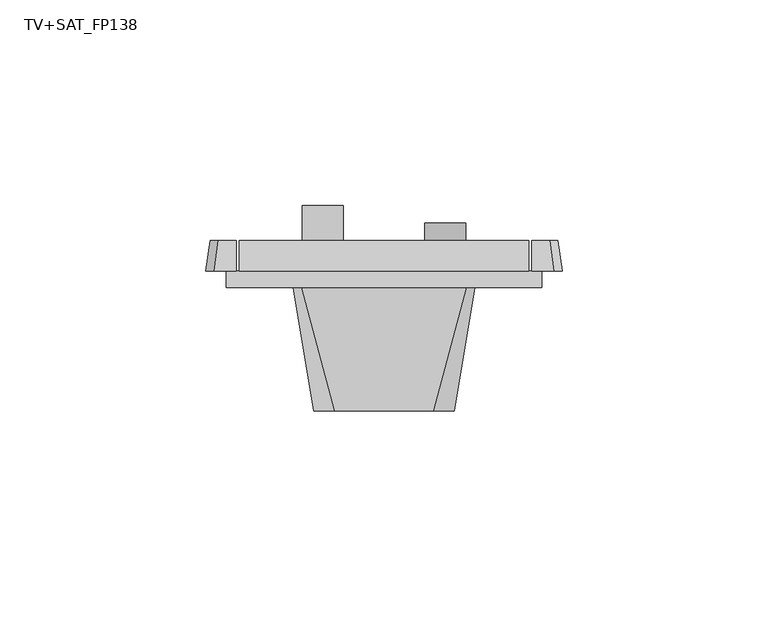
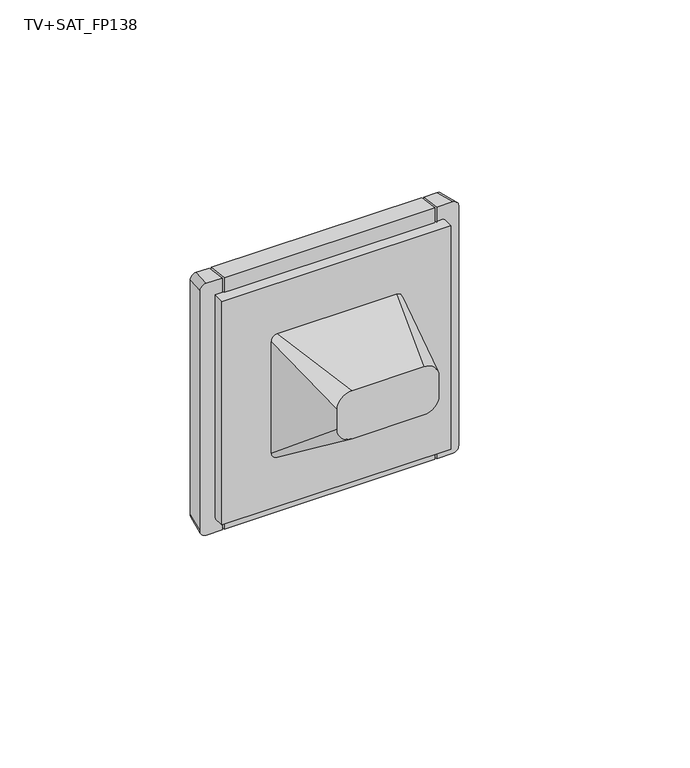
"""IFC4 building model written with IfcOpenShell, lengths in millimetres: proxy geometry, IEK_Forte&Piano_Розекта мультимедийная : TV+SAT_FP138."""

from ifc_helpers import new_model, si_unit, point, frame, origin, place, context, project, spatial, polyline, circle_curve, trimmed, faceted_brep, source, transform, mapped, element, save
from ifc_brep_helpers import plane_surface, cylinder_surface, revolved_surface, extruded_surface, spline_surface, advanced_brep


def tv_sat_fp138_361e7c60(model_context):
    return source(origin(), model_context, "Body", "SolidModel", [
        advanced_brep(
        [(11.2075584, 10.5, 10.0), (18.53558, 10.5, 10.0), (18.53558, 10.5, 5.9644803), (11.2075584, 10.5, 5.9644803), (-18.53558, 10.5, 10.0), (-11.2075584, 10.5, 10.0), (-11.2075584, 10.5, 5.9644803), (-18.53558, 10.5, 5.9644803), (11.2075584, 11.5, 10.0), (11.2075584, 11.5, 5.9644803), (18.53558, 11.5, 10.0), (18.53558, 11.5, 5.9644803), (-18.53558, 11.5, 10.0), (-11.2075584, 11.5, 10.0), (-18.53558, 11.5, 5.9644803), (-11.2075584, 11.5, 5.9644803), (-22.7, 11.5, 22.7), (22.7, 11.5, 22.7), (22.7, 11.5, -22.7), (-22.7, 11.5, -22.7), (7.8715692, 11.5, 0.0), (21.8715692, 11.5, 0.0), (-21.8715692, 11.5, 0.0), (-7.8715692, 11.5, 0.0), (-22.7, 4.0, 22.7), (-22.7, 4.0, -22.7), (22.7, 4.0, -22.7), (22.7, 4.0, 22.7), (21.8715692, 4.0, 0.0), (7.8715692, 4.0, 0.0), (-7.8715692, 4.0, 0.0), (-21.8715692, 4.0, 0.0)],
        [
            (0, 1),
            (1, 2),
            (2, 3, circle_curve(frame((14.8715692, 10.5, 0.0), z_axis=(0.0, -1.0, 0.0), x_axis=(1.0, 0.0, 0.0)), 7.0)),
            (3, 0),
            (4, 5),
            (5, 6),
            (6, 7, circle_curve(frame((-14.8715692, 10.5, 0.0), z_axis=(0.0, -1.0, 0.0), x_axis=(1.0, 0.0, 0.0)), 7.0)),
            (7, 4),
            (8, 0),
            (3, 9),
            (9, 8),
            (1, 10),
            (10, 11),
            (11, 2),
            (8, 10),
            (4, 12),
            (12, 13),
            (13, 5),
            (7, 14),
            (14, 12),
            (13, 15),
            (15, 6),
            (16, 17),
            (17, 18),
            (18, 19),
            (19, 16),
            (9, 20, circle_curve(frame((14.8715692, 11.5, 0.0), z_axis=(0.0, -1.0, 0.0), x_axis=(1.0, 0.0, 0.0)), 7.0)),
            (20, 21, circle_curve(frame((14.8715692, 11.5, 0.0), z_axis=(0.0, -1.0, 0.0), x_axis=(1.0, 0.0, 0.0)), 7.0)),
            (21, 11, circle_curve(frame((14.8715692, 11.5, 0.0), z_axis=(0.0, -1.0, 0.0), x_axis=(1.0, 0.0, 0.0)), 7.0)),
            (14, 22, circle_curve(frame((-14.8715692, 11.5, 0.0), z_axis=(0.0, -1.0, 0.0), x_axis=(1.0, 0.0, 0.0)), 7.0)),
            (22, 23, circle_curve(frame((-14.8715692, 11.5, 0.0), z_axis=(0.0, -1.0, 0.0), x_axis=(1.0, 0.0, 0.0)), 7.0)),
            (23, 15, circle_curve(frame((-14.8715692, 11.5, 0.0), z_axis=(0.0, -1.0, 0.0), x_axis=(1.0, 0.0, 0.0)), 7.0)),
            (24, 25),
            (25, 26),
            (26, 27),
            (27, 24),
            (28, 29, circle_curve(frame((14.8715692, 4.0, 0.0), z_axis=(0.0, 1.0, 0.0), x_axis=(1.0, 0.0, 0.0)), 7.0)),
            (29, 28, circle_curve(frame((14.8715692, 4.0, 0.0), z_axis=(0.0, 1.0, 0.0), x_axis=(1.0, 0.0, 0.0)), 7.0)),
            (30, 31, circle_curve(frame((-14.8715692, 4.0, 0.0), z_axis=(0.0, 1.0, 0.0), x_axis=(1.0, 0.0, 0.0)), 7.0)),
            (31, 30, circle_curve(frame((-14.8715692, 4.0, 0.0), z_axis=(0.0, 1.0, 0.0), x_axis=(1.0, 0.0, 0.0)), 7.0)),
            (28, 21),
            (20, 29),
            (30, 23),
            (22, 31),
            (19, 25),
            (24, 16),
            (18, 26),
            (17, 27),
        ],
        [
            plane_surface(frame((11.2075584, 10.5, 8.2474839), z_axis=(0.0, 1.0, 0.0), x_axis=(0.0, 0.0, -1.0))),
            plane_surface(frame((11.2075584, 10.5, 10.0), z_axis=(1.0, 0.0, 0.0), x_axis=(0.0, 1.0, 0.0))),
            plane_surface(frame((18.53558, 10.5, 4.8456457), z_axis=(-1.0, 0.0, 0.0), x_axis=(0.0, 1.0, 0.0))),
            plane_surface(frame((18.53558, 10.5, 10.0), z_axis=(0.0, 0.0, -1.0), x_axis=(0.0, 1.0, 0.0))),
            plane_surface(frame((-11.2075584, 10.5, 10.0), z_axis=(0.0, 0.0, -1.0), x_axis=(0.0, 1.0, 0.0))),
            plane_surface(frame((-18.53558, 10.5, 10.0), z_axis=(1.0, 0.0, 0.0), x_axis=(0.0, 1.0, 0.0))),
            plane_surface(frame((-11.2075584, 10.5, 4.8456457), z_axis=(-1.0, 0.0, 0.0), x_axis=(0.0, 1.0, 0.0))),
            plane_surface(frame((-22.7, 11.5, 22.7), z_axis=(0.0, 1.0, 0.0), x_axis=(0.0, 0.0, 1.0))),
            plane_surface(frame((-22.7, 4.0, 22.7), z_axis=(0.0, -1.0, 0.0), x_axis=(0.0, 0.0, -1.0))),
            revolved_surface(polyline([(21.8715692, 4.0, 0.0), (21.8715692, 11.5, 0.0)]), (14.8715692, 11.5, 0.0), (0.0, -1.0, 0.0)),
            revolved_surface(polyline([(-7.8715692, 4.0, 0.0), (-7.8715692, 11.5, 0.0)]), (-14.8715692, -1.5, 0.0), (0.0, -1.0, 0.0)),
            plane_surface(frame((-22.7, 4.0, 22.7), z_axis=(-1.0, 0.0, 0.0), x_axis=(0.0, 1.0, 0.0))),
            plane_surface(frame((-22.7, 4.0, -22.7), z_axis=(0.0, 0.0, -1.0), x_axis=(0.0, 1.0, 0.0))),
            plane_surface(frame((22.7, 4.0, -22.7), z_axis=(1.0, 0.0, 0.0), x_axis=(0.0, 1.0, 0.0))),
            plane_surface(frame((22.7, 4.0, 22.7), z_axis=(0.0, 0.0, 1.0), x_axis=(0.0, 1.0, 0.0))),
        ],
        [
            (0, [[1, 2, 3, 4]]),
            (0, [[5, 6, 7, 8]]),
            (1, [[9, -4, 10, 11]]),
            (2, [[12, 13, 14, -2]]),
            (3, [[-1, -9, 15, -12]]),
            (4, [[-5, 16, 17, 18]]),
            (5, [[-16, -8, 19, 20]]),
            (6, [[-18, 21, 22, -6]]),
            (7, [[23, 24, 25, 26], [-15, -11, 27, 28, 29, -13], [-17, -20, 30, 31, 32, -21]]),
            (8, [[33, 34, 35, 36], [37, 38], [39, 40]]),
            (9, [[41, -28, 42, -37]]),
            (9, [[-41, -38, -42, -27, -10, -3, -14, -29]]),
            (10, [[43, -31, 44, -39]]),
            (10, [[-43, -40, -44, -30, -19, -7, -22, -32]]),
            (11, [[-26, 45, -33, 46]]),
            (12, [[-25, 47, -34, -45]]),
            (13, [[-24, 48, -35, -47]]),
            (14, [[-23, -46, -36, -48]]),
        ],
    ),
        advanced_brep(
        [(13.8171946, 10.4251664, 0.0), (15.9259438, 10.4251664, 0.0), (18.7127862, 10.4251664, 0.0), (11.0303521, 10.4251664, 0.0), (18.7127862, 4.0, 0.0), (11.0303521, 4.0, 0.0), (15.9259438, 4.0, 0.0), (13.8171946, 4.0, 0.0)],
        [
            (0, 1, circle_curve(frame((14.8715692, 10.4251664, 0.0), z_axis=(0.0, -1.0, 0.0), x_axis=(1.0, 0.0, 0.0)), 1.0543746)),
            (1, 2),
            (2, 3, circle_curve(frame((14.8715692, 10.4251664, 0.0), z_axis=(0.0, 1.0, 0.0), x_axis=(1.0, 0.0, 0.0)), 3.8412171)),
            (3, 0),
            (1, 0, circle_curve(frame((14.8715692, 10.4251664, 0.0), z_axis=(0.0, -1.0, 0.0), x_axis=(1.0, 0.0, 0.0)), 1.0543746)),
            (3, 2, circle_curve(frame((14.8715692, 10.4251664, 0.0), z_axis=(0.0, 1.0, 0.0), x_axis=(1.0, 0.0, 0.0)), 3.8412171)),
            (2, 4),
            (4, 5, circle_curve(frame((14.8715692, 4.0, 0.0), z_axis=(0.0, 1.0, 0.0), x_axis=(1.0, 0.0, 0.0)), 3.8412171)),
            (5, 3),
            (5, 4, circle_curve(frame((14.8715692, 4.0, 0.0), z_axis=(0.0, 1.0, 0.0), x_axis=(1.0, 0.0, 0.0)), 3.8412171)),
            (4, 6),
            (6, 7, circle_curve(frame((14.8715692, 4.0, 0.0), z_axis=(0.0, 1.0, 0.0), x_axis=(1.0, 0.0, 0.0)), 1.0543746)),
            (7, 5),
            (7, 6, circle_curve(frame((14.8715692, 4.0, 0.0), z_axis=(0.0, 1.0, 0.0), x_axis=(1.0, 0.0, 0.0)), 1.0543746)),
            (6, 1),
            (0, 7),
        ],
        [
            plane_surface(frame((14.8715692, 10.4251664, 0.0), z_axis=(0.0, 1.0, 0.0), x_axis=(1.0, 0.0, 0.0))),
            cylinder_surface(frame((14.8715692, 1.5, 0.0), z_axis=(0.0, 1.0, 0.0), x_axis=(1.0, 0.0, 0.0)), 3.8412171),
            plane_surface(frame((14.8715692, 4.0, 0.0), z_axis=(0.0, -1.0, 0.0), x_axis=(1.0, 0.0, 0.0))),
            revolved_surface(polyline([(15.925943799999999, 10.4251664, 0.0), (15.925943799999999, 4.0, 0.0)]), (14.8715692, 1.5, 0.0), (0.0, 1.0, 0.0)),
        ],
        [
            (0, [[1, 2, 3, 4]]),
            (0, [[5, -4, 6, -2]]),
            (1, [[-3, 7, 8, 9]]),
            (1, [[-6, -9, 10, -7]]),
            (2, [[-8, 11, 12, 13]]),
            (2, [[-10, -13, 14, -11]]),
            (3, [[-12, 15, -1, 16]]),
            (3, [[-14, -16, -5, -15]]),
        ],
    ),
        advanced_brep(
        [(14.8715692, 14.7712404, 0.0), (15.7742181, 14.7712404, 0.0), (13.9689203, 14.7712404, 0.0), (13.9689203, 4.0, 0.0), (15.7742181, 4.0, 0.0), (14.8715692, 4.0, 0.0)],
        [
            (0, 1),
            (1, 2, circle_curve(frame((14.8715692, 14.7712404, 0.0), z_axis=(0.0, 1.0, 0.0), x_axis=(1.0, 0.0, 0.0)), 0.9026489)),
            (2, 0),
            (2, 1, circle_curve(frame((14.8715692, 14.7712404, 0.0), z_axis=(0.0, 1.0, 0.0), x_axis=(1.0, 0.0, 0.0)), 0.9026489)),
            (3, 4, circle_curve(frame((14.8715692, 4.0, 0.0), z_axis=(0.0, -1.0, 0.0), x_axis=(1.0, 0.0, 0.0)), 0.9026489)),
            (4, 5),
            (5, 3),
            (4, 3, circle_curve(frame((14.8715692, 4.0, 0.0), z_axis=(0.0, -1.0, 0.0), x_axis=(1.0, 0.0, 0.0)), 0.9026489)),
            (1, 4),
            (3, 2),
        ],
        [
            plane_surface(frame((14.8715692, 14.7712404, 0.0), z_axis=(0.0, 1.0, 0.0), x_axis=(1.0, 0.0, 0.0))),
            plane_surface(frame((14.8715692, 4.0, 0.0), z_axis=(0.0, -1.0, 0.0), x_axis=(1.0, 0.0, 0.0))),
            cylinder_surface(frame((14.8715692, 1.5, 0.0), z_axis=(0.0, 1.0, 0.0), x_axis=(1.0, 0.0, 0.0)), 0.9026489),
        ],
        [
            (0, [[1, 2, 3]]),
            (0, [[-3, 4, -1]]),
            (1, [[5, 6, 7]]),
            (1, [[8, -7, -6]]),
            (2, [[-2, 9, -5, 10]]),
            (2, [[-4, -10, -8, -9]]),
        ],
    ),
        advanced_brep(
        [(9.8715692, 4.0, 0.0), (19.8715692, 4.0, 0.0), (18.8920998, 4.0, 0.0), (10.8510386, 4.0, 0.0), (18.8920998, 12.5, 0.0), (10.8510386, 12.5, 0.0), (18.8920998, 15.6430385, 0.0), (10.8510386, 15.6430385, 0.0), (19.8715692, 15.6430385, 0.0), (9.8715692, 15.6430385, 0.0)],
        [
            (0, 1, circle_curve(frame((14.8715692, 4.0, 0.0), z_axis=(0.0, -1.0, 0.0), x_axis=(1.0, 0.0, 0.0)), 5.0)),
            (1, 2),
            (2, 3, circle_curve(frame((14.8715692, 4.0, 0.0), z_axis=(0.0, 1.0, 0.0), x_axis=(1.0, 0.0, 0.0)), 4.0205306)),
            (3, 0),
            (1, 0, circle_curve(frame((14.8715692, 4.0, 0.0), z_axis=(0.0, -1.0, 0.0), x_axis=(1.0, 0.0, 0.0)), 5.0)),
            (3, 2, circle_curve(frame((14.8715692, 4.0, 0.0), z_axis=(0.0, 1.0, 0.0), x_axis=(1.0, 0.0, 0.0)), 4.0205306)),
            (2, 4),
            (4, 5, circle_curve(frame((14.8715692, 12.5, 0.0), z_axis=(0.0, 1.0, 0.0), x_axis=(1.0, 0.0, 0.0)), 4.0205306)),
            (5, 3),
            (5, 4, circle_curve(frame((14.8715692, 12.5, 0.0), z_axis=(0.0, 1.0, 0.0), x_axis=(1.0, 0.0, 0.0)), 4.0205306)),
            (4, 6),
            (6, 7, circle_curve(frame((14.8715692, 15.6430385, 0.0), z_axis=(0.0, 1.0, 0.0), x_axis=(1.0, 0.0, 0.0)), 4.0205306)),
            (7, 5),
            (7, 6, circle_curve(frame((14.8715692, 15.6430385, 0.0), z_axis=(0.0, 1.0, 0.0), x_axis=(1.0, 0.0, 0.0)), 4.0205306)),
            (6, 8),
            (8, 9, circle_curve(frame((14.8715692, 15.6430385, 0.0), z_axis=(0.0, 1.0, 0.0), x_axis=(1.0, 0.0, 0.0)), 5.0)),
            (9, 7),
            (9, 8, circle_curve(frame((14.8715692, 15.6430385, 0.0), z_axis=(0.0, 1.0, 0.0), x_axis=(1.0, 0.0, 0.0)), 5.0)),
            (8, 1),
            (0, 9),
        ],
        [
            plane_surface(frame((14.8715692, 4.0, 0.0), z_axis=(0.0, -1.0, 0.0), x_axis=(1.0, 0.0, 0.0))),
            revolved_surface(polyline([(18.8920998, 12.5, 0.0), (18.8920998, 4.0, 0.0)]), (14.8715692, 11.5, 0.0), (0.0, 1.0, 0.0)),
            revolved_surface(polyline([(18.8920998, 15.6430385, 0.0), (18.8920998, 12.5, 0.0)]), (14.8715692, 11.5, 0.0), (0.0, 1.0, 0.0)),
            plane_surface(frame((14.8715692, 15.6430385, 0.0), z_axis=(0.0, 1.0, 0.0), x_axis=(1.0, 0.0, 0.0))),
            cylinder_surface(frame((14.8715692, 11.5, 0.0), z_axis=(0.0, 1.0, 0.0), x_axis=(1.0, 0.0, 0.0)), 5.0),
        ],
        [
            (0, [[1, 2, 3, 4]]),
            (0, [[5, -4, 6, -2]]),
            (1, [[-3, 7, 8, 9]]),
            (1, [[-6, -9, 10, -7]]),
            (2, [[-8, 11, 12, 13]]),
            (2, [[-10, -13, 14, -11]]),
            (3, [[-12, 15, 16, 17]]),
            (3, [[-14, -17, 18, -15]]),
            (4, [[-16, 19, -1, 20]]),
            (4, [[-18, -20, -5, -19]]),
        ],
    ),
        advanced_brep(
        [(-12.458782, 19.4212356, 0.0), (-17.2843563, 19.4212356, 0.0), (-15.9259438, 19.4212356, 0.0), (-13.8171946, 19.4212356, 0.0), (-12.458782, 4.0, 0.0), (-17.2843563, 4.0, 0.0), (-13.8171946, 4.0, 0.0), (-15.9259438, 4.0, 0.0)],
        [
            (0, 1, circle_curve(frame((-14.8715692, 19.4212356, 0.0), z_axis=(0.0, 1.0, 0.0), x_axis=(-1.0, 0.0, 0.0)), 2.4127872)),
            (1, 2),
            (2, 3, circle_curve(frame((-14.8715692, 19.4212356, 0.0), z_axis=(0.0, -1.0, 0.0), x_axis=(-1.0, 0.0, 0.0)), 1.0543746)),
            (3, 0),
            (1, 0, circle_curve(frame((-14.8715692, 19.4212356, 0.0), z_axis=(0.0, 1.0, 0.0), x_axis=(-1.0, 0.0, 0.0)), 2.4127872)),
            (3, 2, circle_curve(frame((-14.8715692, 19.4212356, 0.0), z_axis=(0.0, -1.0, 0.0), x_axis=(-1.0, 0.0, 0.0)), 1.0543746)),
            (4, 5, circle_curve(frame((-14.8715692, 4.0, 0.0), z_axis=(0.0, 1.0, 0.0), x_axis=(-1.0, 0.0, 0.0)), 2.4127872)),
            (5, 1),
            (0, 4),
            (5, 4, circle_curve(frame((-14.8715692, 4.0, 0.0), z_axis=(0.0, 1.0, 0.0), x_axis=(-1.0, 0.0, 0.0)), 2.4127872)),
            (6, 7, circle_curve(frame((-14.8715692, 4.0, 0.0), z_axis=(0.0, 1.0, 0.0), x_axis=(-1.0, 0.0, 0.0)), 1.0543746)),
            (7, 5),
            (4, 6),
            (7, 6, circle_curve(frame((-14.8715692, 4.0, 0.0), z_axis=(0.0, 1.0, 0.0), x_axis=(-1.0, 0.0, 0.0)), 1.0543746)),
            (2, 7),
            (6, 3),
        ],
        [
            plane_surface(frame((-14.8715692, 19.4212356, 0.0), z_axis=(0.0, 1.0, 0.0), x_axis=(-1.0, 0.0, 0.0))),
            cylinder_surface(frame((-14.8715692, 1.5, 0.0), z_axis=(0.0, -1.0, 0.0), x_axis=(-1.0, 0.0, 0.0)), 2.4127872),
            plane_surface(frame((-14.8715692, 4.0, 0.0), z_axis=(0.0, -1.0, 0.0), x_axis=(-1.0, 0.0, 0.0))),
            revolved_surface(polyline([(-15.925943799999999, 4.0, 0.0), (-15.925943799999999, 19.4212356, 0.0)]), (-14.8715692, 1.5, 0.0), (0.0, -1.0, 0.0)),
        ],
        [
            (0, [[1, 2, 3, 4]]),
            (0, [[5, -4, 6, -2]]),
            (1, [[7, 8, -1, 9]]),
            (1, [[10, -9, -5, -8]]),
            (2, [[11, 12, -7, 13]]),
            (2, [[14, -13, -10, -12]]),
            (3, [[-3, 15, -11, 16]]),
            (3, [[-6, -16, -14, -15]]),
        ],
    ),
        advanced_brep(
        [(-12.458782, 4.0, 0.0), (-17.2843563, 4.0, 0.0), (-19.8715692, 4.0, 0.0), (-9.8715692, 4.0, 0.0), (-12.458782, 12.5, 0.0), (-17.2843563, 12.5, 0.0), (-12.458782, 19.9035586, 0.0), (-17.2843563, 19.9035586, 0.0), (-9.8715692, 19.9035586, 0.0), (-19.8715692, 19.9035586, 0.0)],
        [
            (0, 1, circle_curve(frame((-14.8715692, 4.0, 0.0), z_axis=(0.0, 1.0, 0.0), x_axis=(-1.0, 0.0, 0.0)), 2.4127872)),
            (1, 2),
            (2, 3, circle_curve(frame((-14.8715692, 4.0, 0.0), z_axis=(0.0, -1.0, 0.0), x_axis=(-1.0, 0.0, 0.0)), 5.0)),
            (3, 0),
            (1, 0, circle_curve(frame((-14.8715692, 4.0, 0.0), z_axis=(0.0, 1.0, 0.0), x_axis=(-1.0, 0.0, 0.0)), 2.4127872)),
            (3, 2, circle_curve(frame((-14.8715692, 4.0, 0.0), z_axis=(0.0, -1.0, 0.0), x_axis=(-1.0, 0.0, 0.0)), 5.0)),
            (4, 5, circle_curve(frame((-14.8715692, 12.5, 0.0), z_axis=(0.0, 1.0, 0.0), x_axis=(-1.0, 0.0, 0.0)), 2.4127872)),
            (5, 1),
            (0, 4),
            (5, 4, circle_curve(frame((-14.8715692, 12.5, 0.0), z_axis=(0.0, 1.0, 0.0), x_axis=(-1.0, 0.0, 0.0)), 2.4127872)),
            (6, 7, circle_curve(frame((-14.8715692, 19.9035586, 0.0), z_axis=(0.0, 1.0, 0.0), x_axis=(-1.0, 0.0, 0.0)), 2.4127872)),
            (7, 5),
            (4, 6),
            (7, 6, circle_curve(frame((-14.8715692, 19.9035586, 0.0), z_axis=(0.0, 1.0, 0.0), x_axis=(-1.0, 0.0, 0.0)), 2.4127872)),
            (8, 9, circle_curve(frame((-14.8715692, 19.9035586, 0.0), z_axis=(0.0, 1.0, 0.0), x_axis=(-1.0, 0.0, 0.0)), 5.0)),
            (9, 7),
            (6, 8),
            (9, 8, circle_curve(frame((-14.8715692, 19.9035586, 0.0), z_axis=(0.0, 1.0, 0.0), x_axis=(-1.0, 0.0, 0.0)), 5.0)),
            (2, 9),
            (8, 3),
        ],
        [
            plane_surface(frame((-14.8715692, 4.0, 0.0), z_axis=(0.0, -1.0, 0.0), x_axis=(-1.0, 0.0, 0.0))),
            revolved_surface(polyline([(-17.2843564, 4.0, 0.0), (-17.2843564, 12.5, 0.0)]), (-14.8715692, 11.5, 0.0), (0.0, -1.0, 0.0)),
            revolved_surface(polyline([(-17.2843564, 12.5, 0.0), (-17.2843564, 19.9035586, 0.0)]), (-14.8715692, 11.5, 0.0), (0.0, -1.0, 0.0)),
            plane_surface(frame((-14.8715692, 19.9035586, 0.0), z_axis=(0.0, 1.0, 0.0), x_axis=(-1.0, 0.0, 0.0))),
            cylinder_surface(frame((-14.8715692, 11.5, 0.0), z_axis=(0.0, -1.0, 0.0), x_axis=(-1.0, 0.0, 0.0)), 5.0),
        ],
        [
            (0, [[1, 2, 3, 4]]),
            (0, [[5, -4, 6, -2]]),
            (1, [[7, 8, -1, 9]]),
            (1, [[10, -9, -5, -8]]),
            (2, [[11, 12, -7, 13]]),
            (2, [[14, -13, -10, -12]]),
            (3, [[15, 16, -11, 17]]),
            (3, [[18, -17, -14, -16]]),
            (4, [[-3, 19, -15, 20]]),
            (4, [[-6, -20, -18, -19]]),
        ],
    ),
        faceted_brep([(35.2, 11.5, 43.5), (35.2, 4.0, 44.5), (35.2, 4.0, -44.5), (35.2, 11.5, -43.5), (-35.2, 11.5, 43.5), (-35.2, 11.5, -43.5), (-35.2, 4.0, -44.5), (-35.2, 4.0, 44.5), (-23.5, 4.0, 23.5), (23.5, 4.0, 23.5), (23.5, 4.0, -23.5), (-23.5, 4.0, -23.5), (23.5, 11.5, 23.5), (-23.5, 11.5, 23.5), (-23.5, 11.5, -23.5), (23.5, 11.5, -23.5)], [[[0, 1, 2, 3]], [[4, 5, 6, 7]], [[1, 0, 4, 7]], [[2, 1, 7, 6], [8, 9, 10, 11]], [[3, 2, 6, 5]], [[0, 3, 5, 4], [12, 13, 14, 15]], [[8, 13, 12, 9]], [[9, 12, 15, 10]], [[10, 15, 14, 11]], [[13, 8, 11, 14]]]),
        advanced_brep(
        [(35.8576533, 11.5, 43.5), (35.8576533, 11.5, -43.5), (35.8576533, 4.0, -44.5), (35.8576533, 4.0, -39.5), (35.8576533, 4.0, 39.5), (35.8576533, 4.0, 44.5), (-35.8576533, 11.5, -43.5), (-35.8576533, 11.5, 43.5), (-35.8576533, 4.0, 44.5), (-35.8576533, 4.0, 39.5), (-35.8576533, 4.0, -39.5), (-35.8576533, 4.0, -44.5), (40.25, 11.5, 43.5), (42.25, 11.5, 41.5), (42.25, 11.5, -41.5), (40.25, 11.5, -43.5), (-40.25, 11.5, -43.5), (-42.25, 11.5, -41.5), (-42.25, 11.5, 41.5), (-40.25, 11.5, 43.5), (-41.25, 4.0, 44.5), (-43.25, 4.0, 42.5), (-43.25, 4.0, -42.5), (-41.25, 4.0, -44.5), (-38.25, 4.0, -39.5), (-38.25, 4.0, 39.5), (41.25, 4.0, -44.5), (43.25, 4.0, -42.5), (43.25, 4.0, 42.5), (41.25, 4.0, 44.5), (38.25, 4.0, 39.5), (38.25, 4.0, -39.5), (-38.25, 0.0, 39.5), (-38.25, 0.0, -39.5), (38.25, 0.0, -39.5), (38.25, 0.0, 39.5)],
        [
            (0, 1),
            (1, 2),
            (2, 3),
            (3, 4),
            (4, 5),
            (5, 0),
            (6, 7),
            (7, 8),
            (8, 9),
            (9, 10),
            (10, 11),
            (11, 6),
            (12, 13, circle_curve(frame((40.25, 11.5, 41.5), z_axis=(0.0, 1.0, 0.0), x_axis=(-1.0, 0.0, 0.0)), 2.0)),
            (13, 14),
            (14, 15, circle_curve(frame((40.25, 11.5, -41.5), z_axis=(0.0, 1.0, 0.0), x_axis=(-1.0, 0.0, 0.0)), 2.0)),
            (15, 1),
            (0, 12),
            (16, 17, circle_curve(frame((-40.25, 11.5, -41.5), z_axis=(0.0, 1.0, 0.0), x_axis=(-1.0, 0.0, 0.0)), 2.0)),
            (17, 18),
            (18, 19, circle_curve(frame((-40.25, 11.5, 41.5), z_axis=(0.0, 1.0, 0.0), x_axis=(-1.0, 0.0, 0.0)), 2.0)),
            (19, 7),
            (6, 16),
            (20, 21, circle_curve(frame((-41.25, 4.0, 42.5), z_axis=(0.0, -1.0, 0.0), x_axis=(-1.0, 0.0, 0.0)), 2.0)),
            (21, 22),
            (22, 23, circle_curve(frame((-41.25, 4.0, -42.5), z_axis=(0.0, -1.0, 0.0), x_axis=(-1.0, 0.0, 0.0)), 2.0)),
            (23, 11),
            (10, 24),
            (24, 25),
            (25, 9),
            (8, 20),
            (26, 27, circle_curve(frame((41.25, 4.0, -42.5), z_axis=(0.0, -1.0, 0.0), x_axis=(-1.0, 0.0, 0.0)), 2.0)),
            (27, 28),
            (28, 29, circle_curve(frame((41.25, 4.0, 42.5), z_axis=(0.0, -1.0, 0.0), x_axis=(-1.0, 0.0, 0.0)), 2.0)),
            (29, 5),
            (4, 30),
            (30, 31),
            (31, 3),
            (2, 26),
            (29, 12),
            (19, 20),
            (28, 13),
            (27, 14),
            (26, 15),
            (23, 16),
            (22, 17),
            (21, 18),
            (3, 10),
            (9, 4),
            (32, 33),
            (33, 34),
            (34, 35),
            (35, 32),
            (32, 25),
            (24, 33),
            (31, 34),
            (30, 35),
        ],
        [
            plane_surface(frame((35.8576533, 11.5, 44.5), z_axis=(-1.0, 0.0, 0.0), x_axis=(0.0, -1.0, 0.0))),
            plane_surface(frame((-35.8576533, 11.5, -44.5), z_axis=(1.0, 0.0, 0.0), x_axis=(0.0, -1.0, 0.0))),
            plane_surface(frame((0.0, 11.5, 0.0), z_axis=(0.0, 1.0, 0.0), x_axis=(1.0, 0.0, 0.0))),
            plane_surface(frame((0.0, 4.0, 0.0), z_axis=(0.0, -1.0, 0.0), x_axis=(1.0, 0.0, 0.0))),
            plane_surface(frame((0.0, 4.0, 44.5), z_axis=(0.0, 0.13216372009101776, 0.9912279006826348), x_axis=(1.0, 0.0, 0.0))),
            extruded_surface(trimmed(circle_curve(frame((41.25, 4.0, 42.5), z_axis=(0.0, 1.0, 0.0), x_axis=(-1.0, 0.0, 0.0)), 2.0), [point((41.25, 4.0, 44.5))], [point((43.25, 4.0, 42.5))], True, "CARTESIAN"), (-1.0, 7.5, -1.0), 7.632168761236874),
            plane_surface(frame((43.25, 4.0, 0.0), z_axis=(0.9912279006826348, 0.13216372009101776, 0.0), x_axis=(0.0, 0.0, -1.0))),
            extruded_surface(trimmed(circle_curve(frame((41.25, 4.0, -42.5), z_axis=(0.0, 1.0, 0.0), x_axis=(-1.0, 0.0, 0.0)), 2.0), [point((43.25, 4.0, -42.5))], [point((41.25, 4.0, -44.5))], True, "CARTESIAN"), (-1.0, 7.5, 1.0), 7.632168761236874),
            plane_surface(frame((0.0, 4.0, -44.5), z_axis=(0.0, 0.13216372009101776, -0.9912279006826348), x_axis=(-1.0, 0.0, 0.0))),
            extruded_surface(trimmed(circle_curve(frame((-41.25, 4.0, -42.5), z_axis=(0.0, 1.0, 0.0), x_axis=(-1.0, 0.0, 0.0)), 2.0), [point((-41.25, 4.0, -44.5))], [point((-43.25, 4.0, -42.5))], True, "CARTESIAN"), (1.0, 7.5, 1.0), 7.632168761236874),
            plane_surface(frame((-43.25, 4.0, 0.0), z_axis=(-0.9912279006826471, 0.13216372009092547, 0.0), x_axis=(0.0, 0.0, 1.0))),
            extruded_surface(trimmed(circle_curve(frame((-41.25, 4.0, 42.5), z_axis=(0.0, 1.0, 0.0), x_axis=(-1.0, 0.0, 0.0)), 2.0), [point((-43.25, 4.0, 42.5))], [point((-41.25, 4.0, 44.5))], True, "CARTESIAN"), (1.0, 7.5, -1.0), 7.632168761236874),
            plane_surface(frame((-38.25, 4.0, 39.5), z_axis=(0.0, 1.0, 0.0), x_axis=(0.0, 0.0, 1.0))),
            plane_surface(frame((-38.25, 0.0, 39.5), z_axis=(0.0, -1.0, 0.0), x_axis=(0.0, 0.0, -1.0))),
            plane_surface(frame((-38.25, 0.0, 39.5), z_axis=(-1.0, 0.0, 0.0), x_axis=(0.0, 1.0, 0.0))),
            plane_surface(frame((-38.25, 0.0, -39.5), z_axis=(0.0, 0.0, -1.0), x_axis=(0.0, 1.0, 0.0))),
            plane_surface(frame((38.25, 0.0, -39.5), z_axis=(1.0, 0.0, 0.0), x_axis=(0.0, 1.0, 0.0))),
            plane_surface(frame((38.25, 0.0, 39.5), z_axis=(0.0, 0.0, 1.0), x_axis=(0.0, 1.0, 0.0))),
        ],
        [
            (0, [[1, 2, 3, 4, 5, 6]]),
            (1, [[7, 8, 9, 10, 11, 12]]),
            (2, [[13, 14, 15, 16, -1, 17]]),
            (2, [[18, 19, 20, 21, -7, 22]]),
            (3, [[23, 24, 25, 26, -11, 27, 28, 29, -9, 30]]),
            (3, [[31, 32, 33, 34, -5, 35, 36, 37, -3, 38]]),
            (4, [[39, -17, -6, -34]]),
            (4, [[40, -30, -8, -21]]),
            (5, [[-13, -39, -33, 41]]),
            (6, [[-14, -41, -32, 42]]),
            (7, [[-15, -42, -31, 43]]),
            (8, [[-43, -38, -2, -16]]),
            (8, [[44, -22, -12, -26]]),
            (9, [[-18, -44, -25, 45]]),
            (10, [[-19, -45, -24, 46]]),
            (11, [[-20, -46, -23, -40]]),
            (12, [[47, -10, 48, -4]]),
            (13, [[49, 50, 51, 52]]),
            (14, [[-49, 53, -28, 54]]),
            (15, [[-50, -54, -27, -47, -37, 55]]),
            (16, [[-51, -55, -36, 56]]),
            (17, [[-52, -56, -35, -48, -29, -53]]),
        ],
    ),
        advanced_brep(
        [(-12.0, -30.0, 17.0), (-17.0, -30.0, 12.0), (-17.0, -30.0, 5.0), (-12.0, -30.0, 0.0), (12.0, -30.0, 0.0), (17.0, -30.0, 5.0), (17.0, -30.0, 12.0), (12.0, -30.0, 17.0), (-20.0, 0.0, 22.0), (20.0, 0.0, 22.0), (22.0, 0.0, 20.0), (22.0, 0.0, -20.0), (20.0, 0.0, -22.0), (-20.0, 0.0, -22.0), (-22.0, 0.0, -20.0), (-22.0, 0.0, 20.0)],
        [
            (0, 1, circle_curve(frame((-12.0, -30.0, 12.0), z_axis=(0.0, -1.0, 0.0), x_axis=(1.0, 0.0, 0.0)), 5.0)),
            (1, 2),
            (2, 3, circle_curve(frame((-12.0, -30.0, 5.0), z_axis=(0.0, -1.0, 0.0), x_axis=(1.0, 0.0, 0.0)), 5.0)),
            (3, 4),
            (4, 5, circle_curve(frame((12.0, -30.0, 5.0), z_axis=(0.0, -1.0, 0.0), x_axis=(1.0, 0.0, 0.0)), 5.0)),
            (5, 6),
            (6, 7, circle_curve(frame((12.0, -30.0, 12.0), z_axis=(0.0, -1.0, 0.0), x_axis=(1.0, 0.0, 0.0)), 5.0)),
            (7, 0),
            (8, 9),
            (9, 10, circle_curve(frame((20.0, 0.0, 20.0), z_axis=(0.0, 1.0, 0.0), x_axis=(1.0, 0.0, 0.0)), 2.0)),
            (10, 11),
            (11, 12, circle_curve(frame((20.0, 0.0, -20.0), z_axis=(0.0, 1.0, 0.0), x_axis=(1.0, 0.0, 0.0)), 2.0)),
            (12, 13),
            (13, 14, circle_curve(frame((-20.0, 0.0, -20.0), z_axis=(0.0, 1.0, 0.0), x_axis=(1.0, 0.0, 0.0)), 2.0)),
            (14, 15),
            (15, 8, circle_curve(frame((-20.0, 0.0, 20.0), z_axis=(0.0, 1.0, 0.0), x_axis=(1.0, 0.0, 0.0)), 2.0)),
            (8, 0),
            (7, 9),
            (6, 10),
            (5, 11),
            (4, 12),
            (3, 13),
            (2, 14),
            (1, 15),
        ],
        [
            plane_surface(frame((0.0, -30.0, 8.5), z_axis=(0.0, -1.0, 0.0), x_axis=(-1.0, 0.0, 0.0))),
            plane_surface(frame((0.0, 0.0, 0.0), z_axis=(0.0, 1.0, 0.0), x_axis=(-1.0, 0.0, 0.0))),
            plane_surface(frame((0.0, 0.0, 22.0), z_axis=(0.0, -0.16439898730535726, 0.9863939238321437), x_axis=(-1.0, 0.0, 0.0))),
            spline_surface(2, 1, [[(22.0, 0.0, 20.0), (17.0, -30.0, 12.0)], [(22.0, 0.0, 22.0), (17.0, -30.0, 17.0)], [(20.0, 0.0, 22.0), (12.0, -30.0, 17.0)]], [3, 3], [2, 2], [0.0, 1.0], [0.0, 1.0], weights=[[1.0, 1.0], [0.7071067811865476, 0.7071067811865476], [1.0, 1.0]]),
            plane_surface(frame((22.0, 0.0, 0.0), z_axis=(0.9863939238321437, -0.1643989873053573, 0.0), x_axis=(0.0, 0.0, 1.0))),
            spline_surface(2, 1, [[(20.0, 0.0, -22.0), (12.0, -30.0, 0.0)], [(22.0, 0.0, -22.0), (17.0, -30.0, 0.0)], [(22.0, 0.0, -20.0), (17.0, -30.0, 5.0)]], [3, 3], [2, 2], [0.0, 1.0], [0.0, 1.0], weights=[[1.0, 1.0], [0.7071067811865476, 0.7071067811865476], [1.0, 1.0]]),
            plane_surface(frame((0.0, 0.0, -22.0), z_axis=(0.0, -0.591363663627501, -0.8064049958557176), x_axis=(1.0, 0.0, 0.0))),
            spline_surface(2, 1, [[(-22.0, 0.0, -20.0), (-17.0, -30.0, 5.0)], [(-22.0, 0.0, -22.0), (-17.0, -30.0, 0.0)], [(-20.0, 0.0, -22.0), (-12.0, -30.0, 0.0)]], [3, 3], [2, 2], [0.0, 1.0], [0.0, 1.0], weights=[[1.0, 1.0], [0.7071067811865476, 0.7071067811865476], [1.0, 1.0]]),
            plane_surface(frame((-22.0, 0.0, 0.0), z_axis=(-0.9863939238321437, -0.1643989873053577, 0.0), x_axis=(0.0, 0.0, -1.0))),
            spline_surface(2, 1, [[(-20.0, 0.0, 22.0), (-12.0, -30.0, 17.0)], [(-22.0, 0.0, 22.0), (-17.0, -30.0, 17.0)], [(-22.0, 0.0, 20.0), (-17.0, -30.0, 12.0)]], [3, 3], [2, 2], [0.0, 1.0], [0.0, 1.0], weights=[[1.0, 1.0], [0.7071067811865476, 0.7071067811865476], [1.0, 1.0]]),
        ],
        [
            (0, [[1, 2, 3, 4, 5, 6, 7, 8]]),
            (1, [[9, 10, 11, 12, 13, 14, 15, 16]]),
            (2, [[-9, 17, -8, 18]]),
            (3, [[-10, -18, -7, 19]]),
            (4, [[-11, -19, -6, 20]]),
            (5, [[-12, -20, -5, 21]]),
            (6, [[-13, -21, -4, 22]]),
            (7, [[-14, -22, -3, 23]]),
            (8, [[-15, -23, -2, 24]]),
            (9, [[-16, -24, -1, -17]]),
        ],
    ),
    ])


if __name__ == "__main__":
    model = new_model("IFC4")
    model_context = context("Model", 3, world=origin())
    ifc_project = project(units=[si_unit("LENGTHUNIT", "METRE", prefix="MILLI")], contexts=[model_context])
    site = spatial("IfcSite", under=ifc_project)
    building = spatial("IfcBuilding", under=site)
    placement = place(None, origin())
    tv_sat_fp138_shape = tv_sat_fp138_361e7c60(model_context)
    element("IfcBuildingElementProxy", 1, Name="IEK_Forte&Piano_Розекта мультимедийная : TV+SAT_FP138", ObjectType="IEK_Forte&Piano_Розекта мультимедийная : TV+SAT_FP138", at=placement, inside=building, context=model_context, shape_type="MappedRepresentation", body=[
        mapped(tv_sat_fp138_shape, transform((0.0, 0.0, 0.0), x_axis=(1.0, 0.0, 0.0), y_axis=(0.0, 1.0, 0.0), z_axis=(0.0, 0.0, 1.0))),
    ])
    save(model, "model.ifc")
